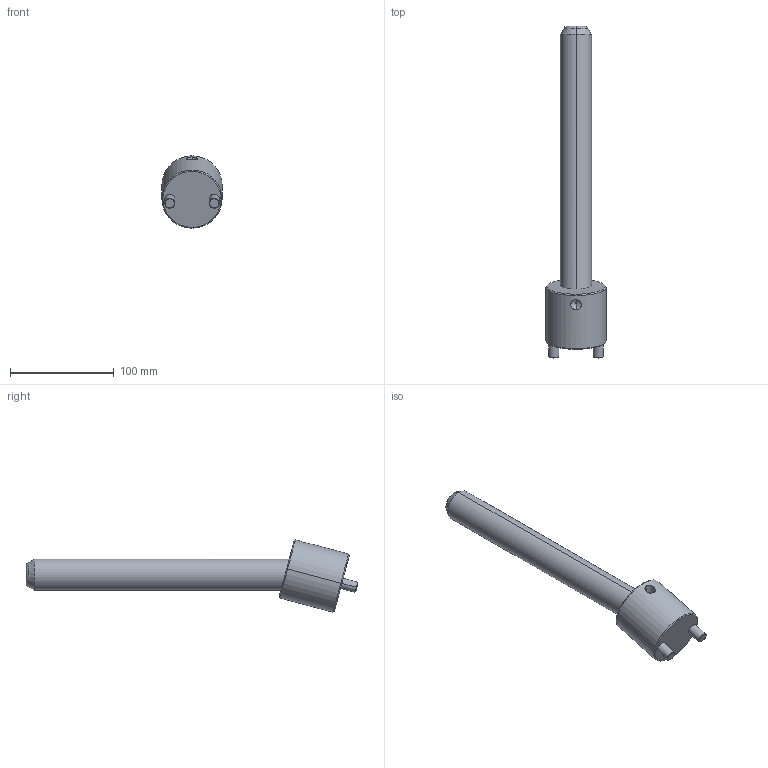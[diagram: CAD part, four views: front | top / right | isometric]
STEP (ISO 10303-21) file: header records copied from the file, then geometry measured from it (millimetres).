
FILE_DESCRIPTION(('CATIA V5 STEP Exchange'),'2;1');
FILE_NAME('C:\Users\Raffaele\Desktop\3D BOLEX\3D FILES CF BOLEX\19-INCLINED ASSEMBLY REF_CI\CI1530250.stp','2019-06-21T14:22:45+00:00',('none'),('none'),'CATIA Version 5 Release 20 GA (IN-10)','CATIA V5 STEP AP203','none');
FILE_SCHEMA(('CONFIG_CONTROL_DESIGN'));
Length unit declared in the file: millimetre
Products named in the file (1): CI1530250
Assembly tree (2 placements, depth 2):
  CI1530250
    #58
    #593
Bounding box: 58 x 320.33 x 69.74 mm (x, y, z)
Volume: 320405.1 mm3; surface area: 49641.4 mm2
Topology: 2 solids, 2 shells, 39 faces, 82 edges, 47 vertices
Faces by surface type: cone 14, cylinder 14, plane 7, torus 4
Entity records: 1551 total; most frequent: CARTESIAN_POINT 688, ORIENTED_EDGE 160, DIRECTION 147, EDGE_CURVE 80, AXIS2_PLACEMENT_3D 74, VERTEX_POINT 47, EDGE_LOOP 43, ADVANCED_FACE 39
